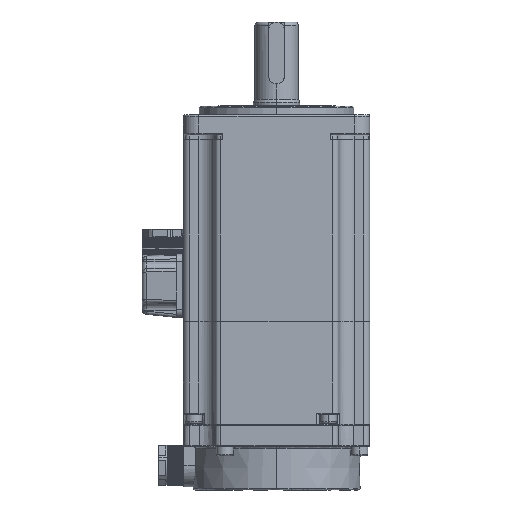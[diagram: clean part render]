
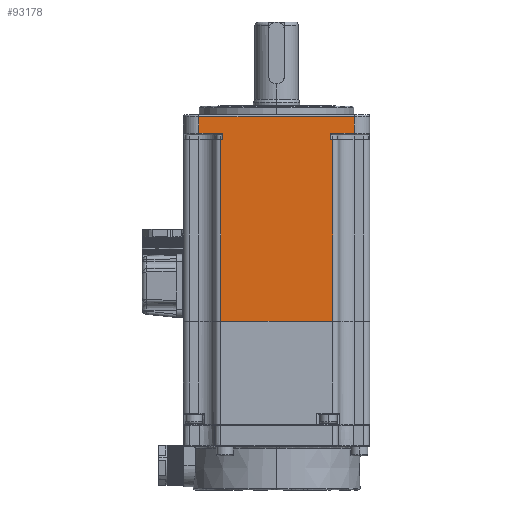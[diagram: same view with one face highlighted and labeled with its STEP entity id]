
A CAD part, left-side view. The second image highlights one B-rep face of the part: STEP entity #93178.
In plain terms, the highlighted planar face has unit normal (-1, 0, 0).
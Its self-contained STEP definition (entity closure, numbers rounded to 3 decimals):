
#2600 = EDGE_CURVE ( 'NONE', #91783, #117907, #18994, .T. ) ;
#3936 = ORIENTED_EDGE ( 'NONE', *, *, #177541, .F. ) ;
#11888 = EDGE_CURVE ( 'NONE', #192791, #190505, #128150, .T. ) ;
#13032 = VECTOR ( 'NONE', #91310, 1000. ) ;
#14906 = DIRECTION ( 'NONE',  ( 0., 0., -1. ) ) ;
#16635 = FACE_OUTER_BOUND ( 'NONE', #195579, .T. ) ;
#18091 = EDGE_CURVE ( 'NONE', #18834, #78690, #75747, .T. ) ;
#18834 = VERTEX_POINT ( 'NONE', #174936 ) ;
#18994 = LINE ( 'NONE', #42819, #175336 ) ;
#19295 = CARTESIAN_POINT ( 'NONE',  ( -30.584, 15.554, 102.1 ) ) ;
#21721 = CARTESIAN_POINT ( 'NONE',  ( -30.584, 15.554, 101.1 ) ) ;
#24684 = LINE ( 'NONE', #185512, #181003 ) ;
#26979 = CARTESIAN_POINT ( 'NONE',  ( -30.584, -39.646, 93.7 ) ) ;
#33401 = CARTESIAN_POINT ( 'NONE',  ( -30.584, -39.646, 93.7 ) ) ;
#35671 = DIRECTION ( 'NONE',  ( 0., 0., 1. ) ) ;
#36567 = VERTEX_POINT ( 'NONE', #95379 ) ;
#38270 = DIRECTION ( 'NONE',  ( 0., 0., 1. ) ) ;
#42029 = CARTESIAN_POINT ( 'NONE',  ( -30.584, -27.046, 93.7 ) ) ;
#42291 = DIRECTION ( 'NONE',  ( 0., 1., 0. ) ) ;
#42389 = DIRECTION ( 'NONE',  ( 0., -1., 0. ) ) ;
#42819 = CARTESIAN_POINT ( 'NONE',  ( -30.584, -34.646, 95.7 ) ) ;
#42966 = ORIENTED_EDGE ( 'NONE', *, *, #103045, .T. ) ;
#47491 = CARTESIAN_POINT ( 'NONE',  ( -30.584, 8.554, 34.9 ) ) ;
#52536 = ORIENTED_EDGE ( 'NONE', *, *, #18091, .T. ) ;
#53534 = LINE ( 'NONE', #166670, #13032 ) ;
#54508 = ORIENTED_EDGE ( 'NONE', *, *, #172539, .T. ) ;
#59057 = ORIENTED_EDGE ( 'NONE', *, *, #135712, .T. ) ;
#65533 = CARTESIAN_POINT ( 'NONE',  ( -30.584, 7.954, 95.7 ) ) ;
#65897 = LINE ( 'NONE', #196285, #181875 ) ;
#69937 = ORIENTED_EDGE ( 'NONE', *, *, #11888, .T. ) ;
#70300 = LINE ( 'NONE', #113648, #186250 ) ;
#71325 = LINE ( 'NONE', #141454, #137476 ) ;
#73760 = VECTOR ( 'NONE', #79068, 1000. ) ;
#74017 = ORIENTED_EDGE ( 'NONE', *, *, #2600, .T. ) ;
#75747 = LINE ( 'NONE', #127556, #191733 ) ;
#77591 = VERTEX_POINT ( 'NONE', #175738 ) ;
#78690 = VERTEX_POINT ( 'NONE', #21721 ) ;
#78939 = DIRECTION ( 'NONE',  ( 0., 0., -1. ) ) ;
#79068 = DIRECTION ( 'NONE',  ( 0., 1., 0. ) ) ;
#83253 = CARTESIAN_POINT ( 'NONE',  ( -30.584, -39.646, 102.1 ) ) ;
#88078 = ORIENTED_EDGE ( 'NONE', *, *, #110554, .T. ) ;
#88896 = EDGE_CURVE ( 'NONE', #77591, #193343, #71325, .T. ) ;
#91008 = VECTOR ( 'NONE', #152508, 1000. ) ;
#91310 = DIRECTION ( 'NONE',  ( 0., 1., 0. ) ) ;
#91783 = VERTEX_POINT ( 'NONE', #123690 ) ;
#93178 = ADVANCED_FACE ( 'NONE', ( #16635 ), #173864, .F. ) ;
#95225 = AXIS2_PLACEMENT_3D ( 'NONE', #83253, #189113, #98481 ) ;
#95379 = CARTESIAN_POINT ( 'NONE',  ( -30.584, 15.554, 95.7 ) ) ;
#98481 = DIRECTION ( 'NONE',  ( 0., 1., 0. ) ) ;
#102634 = VERTEX_POINT ( 'NONE', #47491 ) ;
#103045 = EDGE_CURVE ( 'NONE', #78690, #36567, #151657, .T. ) ;
#105311 = LINE ( 'NONE', #138023, #181084 ) ;
#106362 = ORIENTED_EDGE ( 'NONE', *, *, #161529, .T. ) ;
#106694 = VECTOR ( 'NONE', #78939, 1000. ) ;
#109638 = EDGE_CURVE ( 'NONE', #190505, #102634, #65897, .T. ) ;
#110554 = EDGE_CURVE ( 'NONE', #117907, #18834, #70300, .T. ) ;
#113648 = CARTESIAN_POINT ( 'NONE',  ( -30.584, -34.646, 102.1 ) ) ;
#117907 = VERTEX_POINT ( 'NONE', #127227 ) ;
#123468 = VECTOR ( 'NONE', #42291, 1000. ) ;
#123690 = CARTESIAN_POINT ( 'NONE',  ( -30.584, -27.046, 95.7 ) ) ;
#127227 = CARTESIAN_POINT ( 'NONE',  ( -30.584, -34.646, 95.7 ) ) ;
#127556 = CARTESIAN_POINT ( 'NONE',  ( -30.584, -39.646, 101.1 ) ) ;
#128150 = LINE ( 'NONE', #26979, #123468 ) ;
#131147 = LINE ( 'NONE', #167098, #91008 ) ;
#135712 = EDGE_CURVE ( 'NONE', #193343, #174500, #158941, .T. ) ;
#137476 = VECTOR ( 'NONE', #35671, 1000. ) ;
#138023 = CARTESIAN_POINT ( 'NONE',  ( -30.584, 7.954, 95.7 ) ) ;
#141454 = CARTESIAN_POINT ( 'NONE',  ( -30.584, -27.646, 102.1 ) ) ;
#142756 = DIRECTION ( 'NONE',  ( 0., 1., 0. ) ) ;
#144954 = EDGE_CURVE ( 'NONE', #36567, #154766, #105311, .T. ) ;
#148473 = CARTESIAN_POINT ( 'NONE',  ( -30.584, 7.954, 93.7 ) ) ;
#151657 = LINE ( 'NONE', #19295, #106694 ) ;
#152508 = DIRECTION ( 'NONE',  ( 0., 0., 1. ) ) ;
#153978 = ORIENTED_EDGE ( 'NONE', *, *, #109638, .T. ) ;
#154766 = VERTEX_POINT ( 'NONE', #65533 ) ;
#155038 = DIRECTION ( 'NONE',  ( 0., 0., -1. ) ) ;
#158941 = LINE ( 'NONE', #33401, #73760 ) ;
#161529 = EDGE_CURVE ( 'NONE', #154766, #192791, #24684, .T. ) ;
#166417 = CARTESIAN_POINT ( 'NONE',  ( -30.584, 8.554, 93.7 ) ) ;
#166670 = CARTESIAN_POINT ( 'NONE',  ( -30.584, -39.646, 34.9 ) ) ;
#167098 = CARTESIAN_POINT ( 'NONE',  ( -30.584, -27.046, 102.1 ) ) ;
#167712 = ORIENTED_EDGE ( 'NONE', *, *, #144954, .T. ) ;
#168529 = DIRECTION ( 'NONE',  ( 0., -1., 0. ) ) ;
#172539 = EDGE_CURVE ( 'NONE', #174500, #91783, #131147, .T. ) ;
#173864 = PLANE ( 'NONE',  #95225 ) ;
#174500 = VERTEX_POINT ( 'NONE', #42029 ) ;
#174936 = CARTESIAN_POINT ( 'NONE',  ( -30.584, -34.646, 101.1 ) ) ;
#175336 = VECTOR ( 'NONE', #42389, 1000. ) ;
#175738 = CARTESIAN_POINT ( 'NONE',  ( -30.584, -27.646, 34.9 ) ) ;
#177541 = EDGE_CURVE ( 'NONE', #77591, #102634, #53534, .T. ) ;
#178779 = CARTESIAN_POINT ( 'NONE',  ( -30.584, -27.646, 93.7 ) ) ;
#181003 = VECTOR ( 'NONE', #155038, 1000. ) ;
#181084 = VECTOR ( 'NONE', #168529, 1000. ) ;
#181875 = VECTOR ( 'NONE', #14906, 1000. ) ;
#184114 = ORIENTED_EDGE ( 'NONE', *, *, #88896, .T. ) ;
#185512 = CARTESIAN_POINT ( 'NONE',  ( -30.584, 7.954, 102.1 ) ) ;
#186250 = VECTOR ( 'NONE', #38270, 1000. ) ;
#189113 = DIRECTION ( 'NONE',  ( 1., 0., 0. ) ) ;
#190505 = VERTEX_POINT ( 'NONE', #166417 ) ;
#191733 = VECTOR ( 'NONE', #142756, 1000. ) ;
#192791 = VERTEX_POINT ( 'NONE', #148473 ) ;
#193343 = VERTEX_POINT ( 'NONE', #178779 ) ;
#195579 = EDGE_LOOP ( 'NONE', ( #3936, #184114, #59057, #54508, #74017, #88078, #52536, #42966, #167712, #106362, #69937, #153978 ) ) ;
#196285 = CARTESIAN_POINT ( 'NONE',  ( -30.584, 8.554, 102.1 ) ) ;
